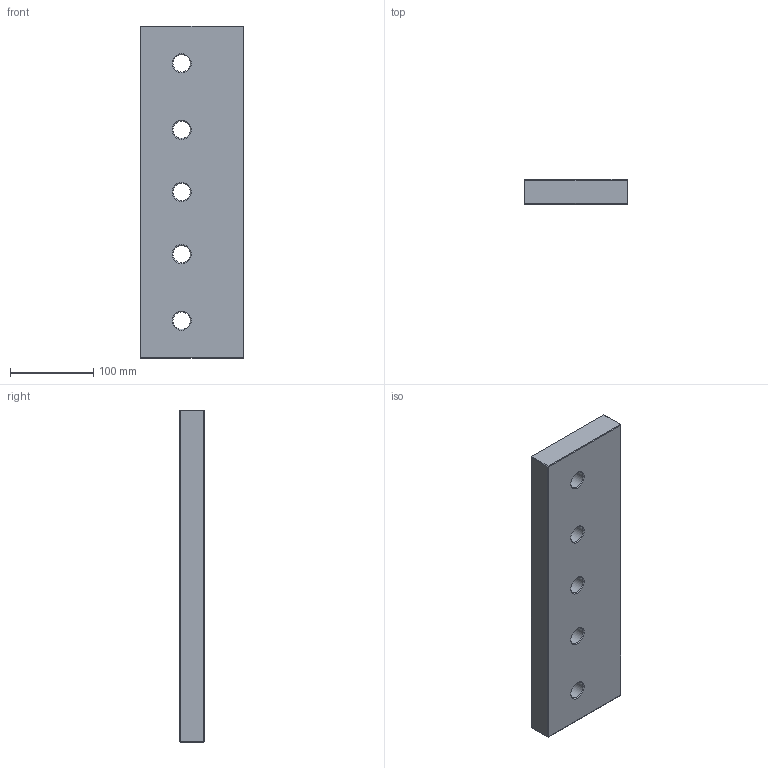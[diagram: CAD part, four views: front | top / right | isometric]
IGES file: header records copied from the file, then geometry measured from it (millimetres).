
Global section: file name: PG40.12530400.ipt; native system: Autodesk Inventor 2021; preprocessor: unknown; author: SM; date: 20211219.190141; units: millimetre
Bounding box: 125 x 30 x 400 mm (x, y, z)
Volume: 1446600.9 mm3; surface area: 136255.5 mm2
Topology: 1 solids, 1 shells, 42 faces, 91 edges, 51 vertices
Faces by surface type: plane 27, revolution 15
